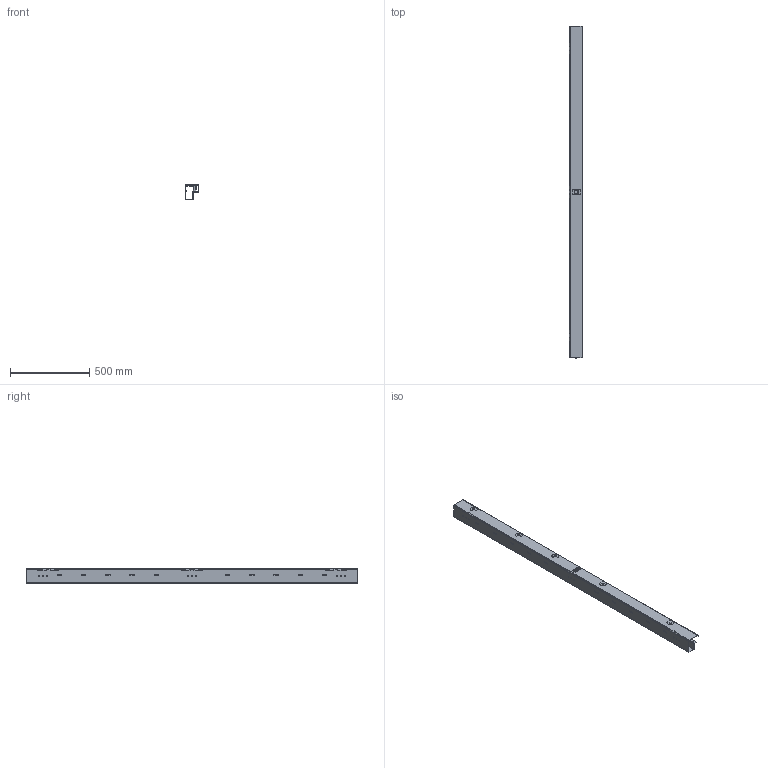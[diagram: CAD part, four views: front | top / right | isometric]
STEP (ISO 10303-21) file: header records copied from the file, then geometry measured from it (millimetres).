
FILE_DESCRIPTION(( 'STEP AP203 file generated by I-DEAS Master Series'),'2;1');
FILE_NAME('D:\a00506\p-vcm227.stp','2001-10-16T08:24:06',('A00506'),( 'unspecified'),'I-DEAS Master Series 7m2 : Design', 'I-DEAS Master Series 7m2 : Design','unspecified');
FILE_SCHEMA(('CONFIG_CONTROL_DESIGN'));
Length unit declared in the file: inch
Assembly tree (12 placements, depth 0):
Bounding box: 85.57 x 2089.66 x 93.44 mm (x, y, z)
Volume: 999574.4 mm3; surface area: 1179554 mm2
Topology: 12 solids, 12 shells, 775 faces, 1845 edges, 1086 vertices
Faces by surface type: bspline 775
Entity records: 22818 total; most frequent: CARTESIAN_POINT 10957, ORIENTED_EDGE 3534, EDGE_CURVE 1767, VERTEX_POINT 1038, EDGE_LOOP 993, QUASI_UNIFORM_CURVE 805, FACE_OUTER_BOUND 725, ADVANCED_FACE 725
